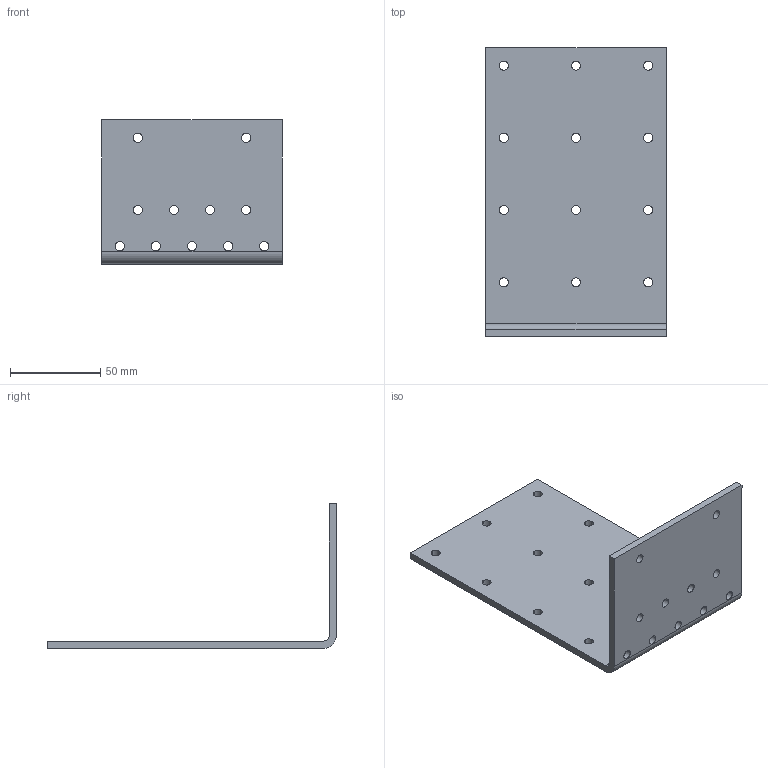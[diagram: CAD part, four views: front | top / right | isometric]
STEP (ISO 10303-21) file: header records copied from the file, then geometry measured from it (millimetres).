
FILE_DESCRIPTION (( 'STEP AP203' ), '1' );
FILE_NAME ('12116181.STEP', '2020-01-15T09:25:54', ( '' ), ( '' ), 'SwSTEP 2.0', 'SolidWorks 2013', '' );
FILE_SCHEMA (( 'CONFIG_CONTROL_DESIGN' ));
Length unit declared in the file: millimetre
Products named in the file (1): 12116181
Bounding box: 100 x 160 x 80 mm (x, y, z)
Volume: 91735.2 mm3; surface area: 49983.6 mm2
Topology: 1 solids, 1 shells, 56 faces, 162 edges, 108 vertices
Faces by surface type: cylinder 48, plane 8
Entity records: 2071 total; most frequent: DIRECTION 372, CARTESIAN_POINT 327, ORIENTED_EDGE 324, EDGE_CURVE 162, AXIS2_PLACEMENT_3D 153, VERTEX_POINT 108, EDGE_LOOP 102, CIRCLE 96
